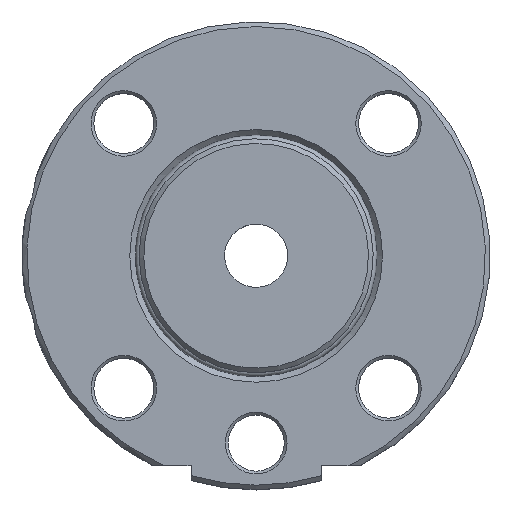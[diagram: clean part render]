
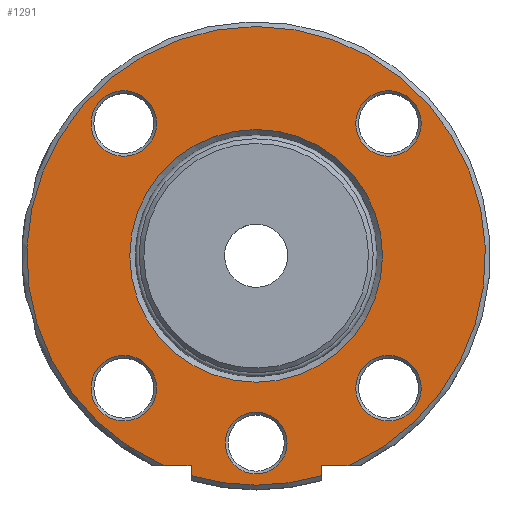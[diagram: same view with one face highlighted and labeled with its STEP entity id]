
A CAD part, top view. The second image highlights one B-rep face of the part: STEP entity #1291.
In plain terms, the highlighted planar face has unit normal (0, 0, 1).
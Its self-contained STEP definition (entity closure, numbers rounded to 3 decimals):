
#90=FACE_BOUND('',#221,.T.);
#91=FACE_BOUND('',#222,.T.);
#92=FACE_BOUND('',#223,.T.);
#93=FACE_BOUND('',#224,.T.);
#94=FACE_BOUND('',#225,.T.);
#95=FACE_BOUND('',#226,.T.);
#113=PLANE('',#1417);
#141=FACE_OUTER_BOUND('',#220,.T.);
#220=EDGE_LOOP('',(#889,#890,#891,#892,#893,#894));
#221=EDGE_LOOP('',(#895));
#222=EDGE_LOOP('',(#896));
#223=EDGE_LOOP('',(#897));
#224=EDGE_LOOP('',(#898));
#225=EDGE_LOOP('',(#899));
#226=EDGE_LOOP('',(#900));
#304=LINE('',#2152,#363);
#305=LINE('',#2154,#364);
#306=LINE('',#2156,#365);
#307=LINE('',#2159,#366);
#363=VECTOR('',#1652,10.);
#364=VECTOR('',#1653,10.);
#365=VECTOR('',#1654,10.);
#366=VECTOR('',#1657,10.);
#437=CIRCLE('',#1413,24.5);
#439=CIRCLE('',#1416,13.5);
#440=CIRCLE('',#1418,24.5);
#441=CIRCLE('',#1419,3.5);
#442=CIRCLE('',#1420,3.3);
#443=CIRCLE('',#1421,3.5);
#444=CIRCLE('',#1422,3.5);
#445=CIRCLE('',#1423,3.5);
#533=VERTEX_POINT('',#2135);
#534=VERTEX_POINT('',#2139);
#536=VERTEX_POINT('',#2147);
#537=VERTEX_POINT('',#2151);
#538=VERTEX_POINT('',#2153);
#539=VERTEX_POINT('',#2155);
#540=VERTEX_POINT('',#2157);
#541=VERTEX_POINT('',#2160);
#542=VERTEX_POINT('',#2162);
#543=VERTEX_POINT('',#2164);
#544=VERTEX_POINT('',#2166);
#545=VERTEX_POINT('',#2168);
#665=EDGE_CURVE('',#533,#534,#437,.T.);
#668=EDGE_CURVE('',#536,#536,#439,.T.);
#670=EDGE_CURVE('',#537,#534,#304,.T.);
#671=EDGE_CURVE('',#533,#538,#305,.T.);
#672=EDGE_CURVE('',#538,#539,#306,.T.);
#673=EDGE_CURVE('',#540,#539,#440,.T.);
#674=EDGE_CURVE('',#540,#537,#307,.T.);
#675=EDGE_CURVE('',#541,#541,#441,.T.);
#676=EDGE_CURVE('',#542,#542,#442,.T.);
#677=EDGE_CURVE('',#543,#543,#443,.T.);
#678=EDGE_CURVE('',#544,#544,#444,.T.);
#679=EDGE_CURVE('',#545,#545,#445,.T.);
#889=ORIENTED_EDGE('',*,*,#670,.T.);
#890=ORIENTED_EDGE('',*,*,#665,.F.);
#891=ORIENTED_EDGE('',*,*,#671,.T.);
#892=ORIENTED_EDGE('',*,*,#672,.T.);
#893=ORIENTED_EDGE('',*,*,#673,.F.);
#894=ORIENTED_EDGE('',*,*,#674,.T.);
#895=ORIENTED_EDGE('',*,*,#675,.F.);
#896=ORIENTED_EDGE('',*,*,#676,.F.);
#897=ORIENTED_EDGE('',*,*,#677,.F.);
#898=ORIENTED_EDGE('',*,*,#678,.F.);
#899=ORIENTED_EDGE('',*,*,#679,.F.);
#900=ORIENTED_EDGE('',*,*,#668,.F.);
#1291=ADVANCED_FACE('',(#141,#90,#91,#92,#93,#94,#95),#113,.T.);
#1413=AXIS2_PLACEMENT_3D('',#2140,#1641,#1642);
#1416=AXIS2_PLACEMENT_3D('',#2148,#1647,#1648);
#1417=AXIS2_PLACEMENT_3D('',#2150,#1650,#1651);
#1418=AXIS2_PLACEMENT_3D('',#2158,#1655,#1656);
#1419=AXIS2_PLACEMENT_3D('',#2161,#1658,#1659);
#1420=AXIS2_PLACEMENT_3D('',#2163,#1660,#1661);
#1421=AXIS2_PLACEMENT_3D('',#2165,#1662,#1663);
#1422=AXIS2_PLACEMENT_3D('',#2167,#1664,#1665);
#1423=AXIS2_PLACEMENT_3D('',#2169,#1666,#1667);
#1641=DIRECTION('center_axis',(0.,0.,
-1.));
#1642=DIRECTION('ref_axis',(-1.,0.,0.));
#1647=DIRECTION('center_axis',(0.,0.,
1.));
#1648=DIRECTION('ref_axis',(-1.,0.,0.));
#1650=DIRECTION('center_axis',(0.,0.,
1.));
#1651=DIRECTION('ref_axis',(1.,0.,0.));
#1652=DIRECTION('',(1.,0.,0.));
#1653=DIRECTION('',(1.,0.,0.));
#1654=DIRECTION('',(0.,-1.,0.));
#1655=DIRECTION('center_axis',(0.,0.,
-1.));
#1656=DIRECTION('ref_axis',(-1.,0.,0.));
#1657=DIRECTION('',(0.,1.,0.));
#1658=DIRECTION('center_axis',(0.,0.,
1.));
#1659=DIRECTION('ref_axis',(-1.,0.,0.));
#1660=DIRECTION('center_axis',(0.,0.,
1.));
#1661=DIRECTION('ref_axis',(-1.,0.,0.));
#1662=DIRECTION('center_axis',(0.,0.,
1.));
#1663=DIRECTION('ref_axis',(-1.,0.,0.));
#1664=DIRECTION('center_axis',(0.,0.,
1.));
#1665=DIRECTION('ref_axis',(-1.,0.,0.));
#1666=DIRECTION('center_axis',(0.,0.,
1.));
#1667=DIRECTION('ref_axis',(-1.,0.,0.));
#2135=CARTESIAN_POINT('',(-14.703,-20.996,25.839));
#2139=CARTESIAN_POINT('',(5.145,-20.996,25.839));
#2140=CARTESIAN_POINT('Origin',(-4.779,1.404,25.839));
#2147=CARTESIAN_POINT('',(8.721,1.404,25.839));
#2148=CARTESIAN_POINT('Origin',(-4.779,1.404,25.839));
#2150=CARTESIAN_POINT('Origin',(-4.779,1.404,25.839));
#2151=CARTESIAN_POINT('',(2.171,-20.996,25.839));
#2152=CARTESIAN_POINT('',(0.772,-20.996,25.839));
#2153=CARTESIAN_POINT('',(-11.729,-20.996,25.839));
#2154=CARTESIAN_POINT('',(-8.254,-20.996,25.839));
#2155=CARTESIAN_POINT('',(-11.729,-22.09,25.839));
#2156=CARTESIAN_POINT('',(-11.729,-10.603,25.839));
#2157=CARTESIAN_POINT('',(2.171,-22.09,25.839));
#2158=CARTESIAN_POINT('Origin',(-4.779,1.404,25.839));
#2159=CARTESIAN_POINT('',(2.171,-9.796,25.839));
#2160=CARTESIAN_POINT('',(12.863,15.546,25.839));
#2161=CARTESIAN_POINT('Origin',(9.363,15.546,25.839));
#2162=CARTESIAN_POINT('',(-1.479,-18.596,25.839));
#2163=CARTESIAN_POINT('Origin',(-4.779,-18.596,25.839));
#2164=CARTESIAN_POINT('',(-15.421,15.546,25.839));
#2165=CARTESIAN_POINT('Origin',(-18.921,15.546,25.839));
#2166=CARTESIAN_POINT('',(-15.421,-12.738,25.839));
#2167=CARTESIAN_POINT('Origin',(-18.921,-12.738,25.839));
#2168=CARTESIAN_POINT('',(12.863,-12.738,25.839));
#2169=CARTESIAN_POINT('Origin',(9.363,-12.738,25.839));
